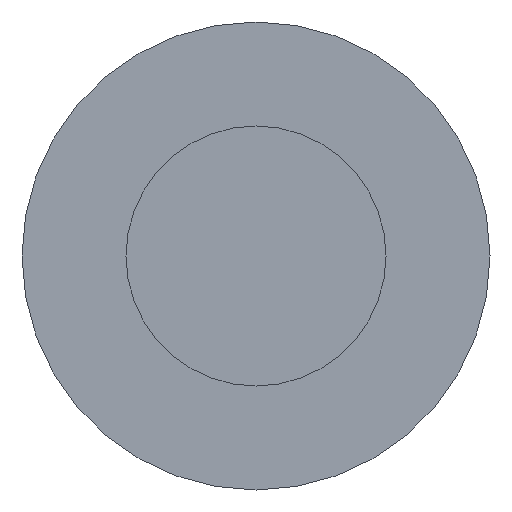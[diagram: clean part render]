
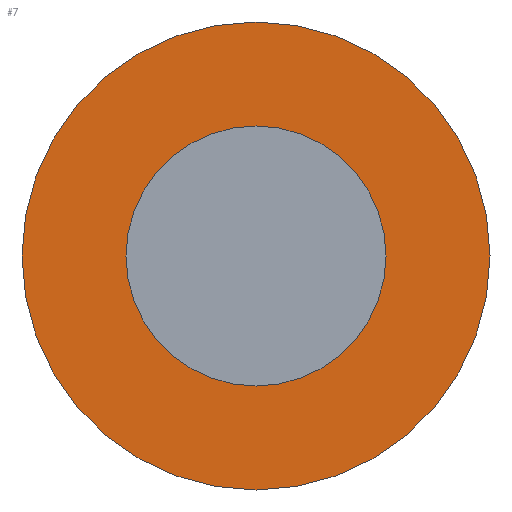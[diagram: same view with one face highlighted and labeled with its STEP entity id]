
A CAD part, front view. The second image highlights one B-rep face of the part: STEP entity #7.
In plain terms, the highlighted planar face has unit normal (0, -1, 0).
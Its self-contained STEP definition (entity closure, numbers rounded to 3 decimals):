
#7 = ADVANCED_FACE ( 'NONE', ( #288, #161 ), #59, .F. ) ;
#29 = VERTEX_POINT ( 'NONE', #262 ) ;
#36 = CARTESIAN_POINT ( 'NONE',  ( 0., 10., 0. ) ) ;
#48 = DIRECTION ( 'NONE',  ( 0., 1., 0. ) ) ;
#49 = EDGE_LOOP ( 'NONE', ( #395, #217 ) ) ;
#57 = DIRECTION ( 'NONE',  ( 0., 0., 1. ) ) ;
#59 = PLANE ( 'NONE',  #230 ) ;
#61 = AXIS2_PLACEMENT_3D ( 'NONE', #101, #228, #358 ) ;
#68 = EDGE_CURVE ( 'NONE', #29, #369, #100, .T. ) ;
#70 = DIRECTION ( 'NONE',  ( 0., 0., 1. ) ) ;
#72 = CIRCLE ( 'NONE', #191, 2.7 ) ;
#100 = CIRCLE ( 'NONE', #61, 1.5 ) ;
#101 = CARTESIAN_POINT ( 'NONE',  ( 0., 10., 0. ) ) ;
#117 = EDGE_CURVE ( 'NONE', #364, #321, #72, .T. ) ;
#120 = CARTESIAN_POINT ( 'NONE',  ( 0., 10., 2.7 ) ) ;
#132 = ORIENTED_EDGE ( 'NONE', *, *, #117, .F. ) ;
#161 = FACE_OUTER_BOUND ( 'NONE', #222, .T. ) ;
#162 = DIRECTION ( 'NONE',  ( 0., 1., 0. ) ) ;
#184 = CARTESIAN_POINT ( 'NONE',  ( 0., 10., 0. ) ) ;
#191 = AXIS2_PLACEMENT_3D ( 'NONE', #266, #269, #394 ) ;
#196 = DIRECTION ( 'NONE',  ( 0., 1., 0. ) ) ;
#217 = ORIENTED_EDGE ( 'NONE', *, *, #68, .T. ) ;
#222 = EDGE_LOOP ( 'NONE', ( #380, #132 ) ) ;
#228 = DIRECTION ( 'NONE',  ( 0., 1., 0. ) ) ;
#230 = AXIS2_PLACEMENT_3D ( 'NONE', #257, #162, #70 ) ;
#257 = CARTESIAN_POINT ( 'NONE',  ( 0., 10., 0. ) ) ;
#258 = EDGE_CURVE ( 'NONE', #321, #364, #347, .T. ) ;
#259 = CIRCLE ( 'NONE', #400, 1.5 ) ;
#262 = CARTESIAN_POINT ( 'NONE',  ( 0., 10., 1.5 ) ) ;
#266 = CARTESIAN_POINT ( 'NONE',  ( 0., 10., 0. ) ) ;
#269 = DIRECTION ( 'NONE',  ( 0., 1., 0. ) ) ;
#288 = FACE_BOUND ( 'NONE', #49, .T. ) ;
#301 = AXIS2_PLACEMENT_3D ( 'NONE', #184, #48, #57 ) ;
#312 = CARTESIAN_POINT ( 'NONE',  ( 0., 10., -2.7 ) ) ;
#321 = VERTEX_POINT ( 'NONE', #312 ) ;
#326 = DIRECTION ( 'NONE',  ( 0., 0., 1. ) ) ;
#347 = CIRCLE ( 'NONE', #301, 2.7 ) ;
#358 = DIRECTION ( 'NONE',  ( 0., 0., 1. ) ) ;
#364 = VERTEX_POINT ( 'NONE', #120 ) ;
#369 = VERTEX_POINT ( 'NONE', #407 ) ;
#380 = ORIENTED_EDGE ( 'NONE', *, *, #258, .F. ) ;
#394 = DIRECTION ( 'NONE',  ( 0., 0., 1. ) ) ;
#395 = ORIENTED_EDGE ( 'NONE', *, *, #403, .T. ) ;
#400 = AXIS2_PLACEMENT_3D ( 'NONE', #36, #196, #326 ) ;
#403 = EDGE_CURVE ( 'NONE', #369, #29, #259, .T. ) ;
#407 = CARTESIAN_POINT ( 'NONE',  ( 0., 10., -1.5 ) ) ;
